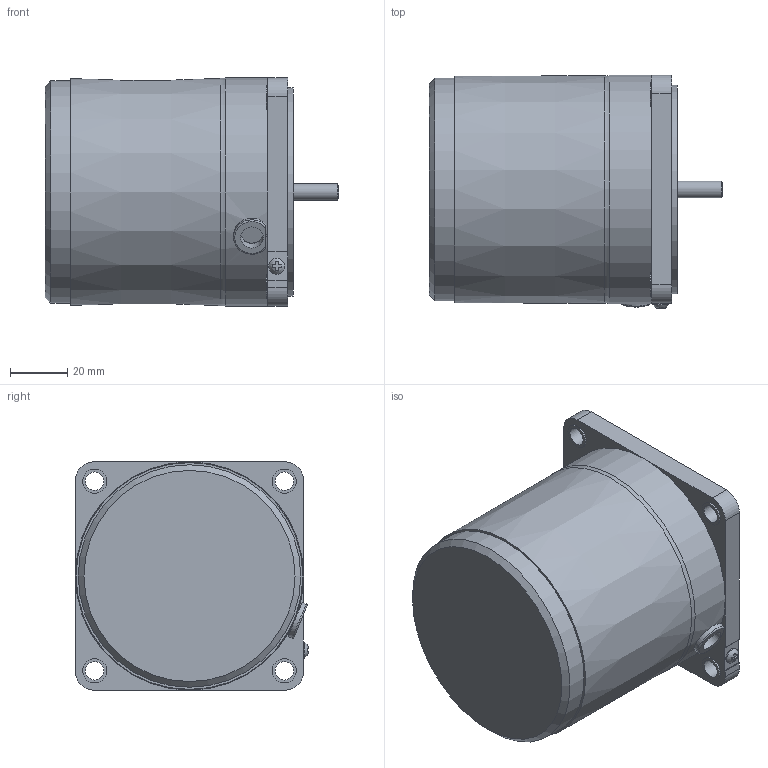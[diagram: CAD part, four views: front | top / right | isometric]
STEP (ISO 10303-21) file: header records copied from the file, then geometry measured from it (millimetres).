
FILE_DESCRIPTION(/* description */ (''),/* implementation_level */ '2;1');
FILE_NAME(/* name */ 'E:\도면작업\2016\0704) 미주향 SG 도면\3D MOTOR\SG8I25G_.stp',/* time_stamp */ '2016-07-22T13:45:44+09:00',/* author */ ('jy-jung'),/* organization */ (''),/* preprocessor_version */ 'ST-DEVELOPER v15.6',/* originating_system */ 'Autodesk Inventor 2015',/* authorisation */ '');
FILE_SCHEMA (('AUTOMOTIVE_DESIGN { 1 0 10303 214 3 1 1 }'));
Length unit declared in the file: millimetre
Products named in the file (1): 부품1
Bounding box: 103 x 81.76 x 80 mm (x, y, z)
Volume: 426708.4 mm3; surface area: 37035.5 mm2
Topology: 1 solids, 2 shells, 101 faces, 243 edges, 160 vertices
Faces by surface type: plane 63, cylinder 32, cone 3, torus 2, bspline 1
Full cylindrical faces by diameter (mm): 5.6 x1, 5.72 x1, 6.5 x4, 8 x1, 8.5 x4, 34 x1, 73 x1, 78 x1, 80 x1
Entity records: 3116 total; most frequent: CARTESIAN_POINT 632, DIRECTION 486, ORIENTED_EDGE 448, EDGE_CURVE 224, AXIS2_PLACEMENT_3D 180, VERTEX_POINT 160, EDGE_LOOP 142, LINE 126
